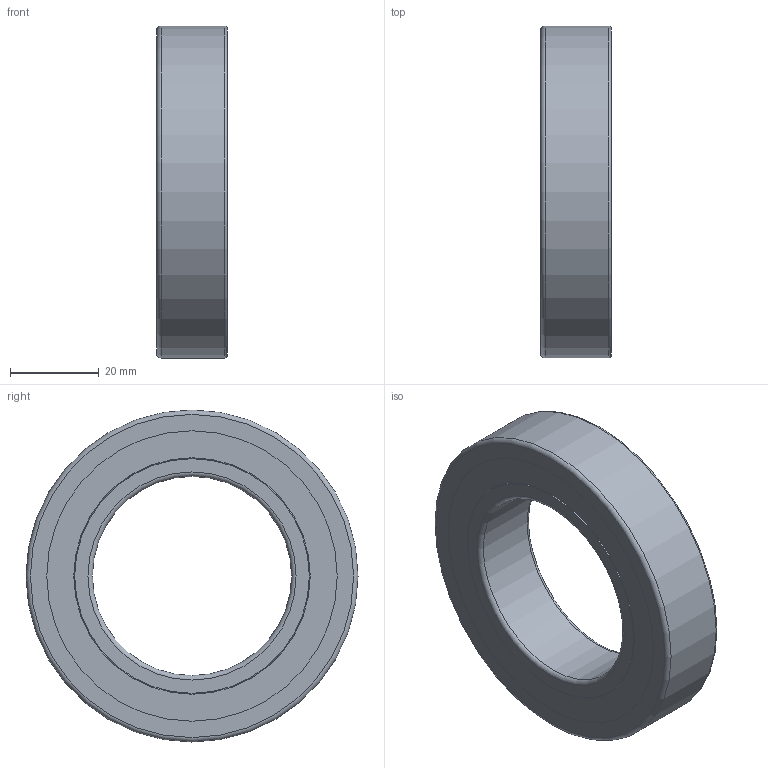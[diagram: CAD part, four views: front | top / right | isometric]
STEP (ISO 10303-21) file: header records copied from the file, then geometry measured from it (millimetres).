
FILE_DESCRIPTION(/* description */ (''),/* implementation_level */ '2;1');
FILE_NAME(/* name */ 'KH_6009_TA.step',/* time_stamp */ '2013-03-07T07:04:18+01:00',/* author */ ('Marian'),/* organization */ ('GMN'),/* preprocessor_version */ 'ST-DEVELOPER v11',/* originating_system */ 'SIEMENS UGS NX 6.0',/* authorisation */ '');
FILE_SCHEMA (('CONFIG_CONTROL_DESIGN'));
Length unit declared in the file: millimetre
Products named in the file (1): KH_6009_TA
Bounding box: 16 x 75 x 75 mm (x, y, z)
Volume: 36281.1 mm3; surface area: 27802.1 mm2
Topology: 27 solids, 27 shells, 76 faces, 188 edges, 122 vertices
Faces by surface type: cylinder 35, sphere 22, plane 12, torus 6, cone 1
Full cylindrical faces by diameter (mm): 6.55 x22, 45 x1, 53 x1, 53.4 x1, 54.7 x1, 55.1 x1, 58.59 x1, 62.48 x1, 62.88 x1, 65.6 x2, 67.8 x2, 75 x1
Entity records: 4130 total; most frequent: CARTESIAN_POINT 2759, DIRECTION 218, FACE_BOUND 174, EDGE_LOOP 152, ORIENTED_EDGE 152, AXIS2_PLACEMENT_3D 109, VERTEX_POINT 98, ADVANCED_FACE 76
